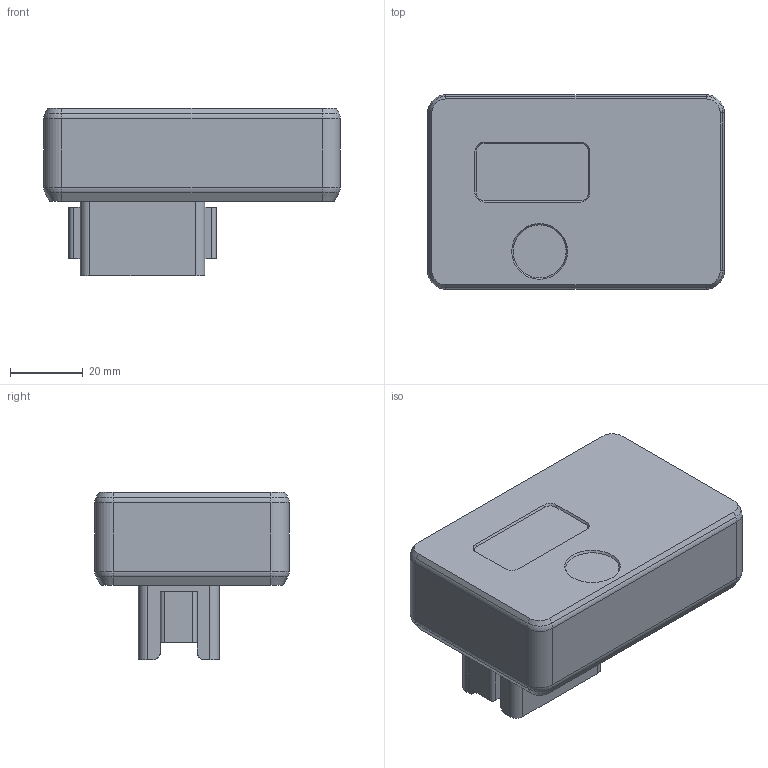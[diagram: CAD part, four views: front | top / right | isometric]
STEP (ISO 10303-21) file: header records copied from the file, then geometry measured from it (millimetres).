
FILE_DESCRIPTION (( 'STEP AP203' ), '1' );
FILE_NAME ('HW2.2Enclosure_Solidworks-DefeaturedTemplate-vGit.STEP', '2026-04-26T04:39:55', ( '' ), ( '' ), 'SwSTEP 2.0', 'SolidWorks 2026', '' );
FILE_SCHEMA (( 'CONFIG_CONTROL_DESIGN' ));
Length unit declared in the file: metre
Products named in the file (1): HW2.2Enclosure_Solidworks-DefeaturedTemplate-vGit
Bounding box: 81.5 x 53.4 x 45.95 mm (x, y, z)
Volume: 110385.1 mm3; surface area: 20851.8 mm2
Topology: 1 solids, 1 shells, 223 faces, 600 edges, 376 vertices
Faces by surface type: plane 101, cylinder 74, sphere 24, cone 14, torus 8, bspline 2
Entity records: 6895 total; most frequent: CARTESIAN_POINT 1366, DIRECTION 1190, ORIENTED_EDGE 1104, EDGE_CURVE 552, AXIS2_PLACEMENT_3D 426, VERTEX_POINT 352, LINE 338, VECTOR 338
